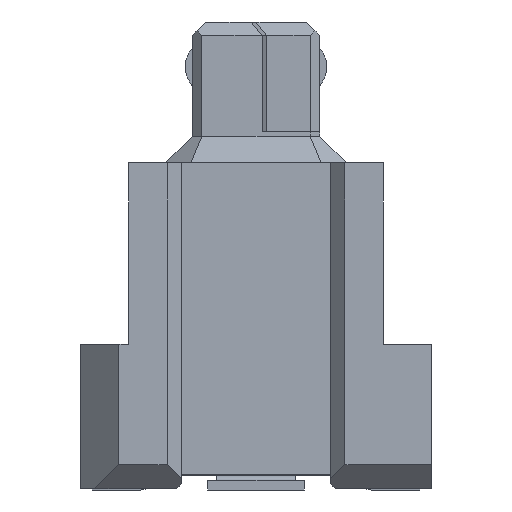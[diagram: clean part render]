
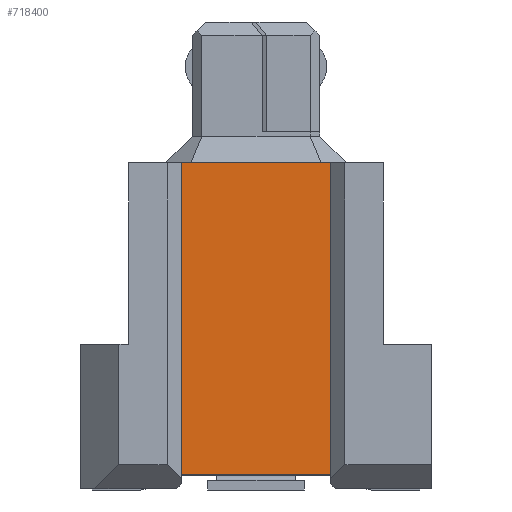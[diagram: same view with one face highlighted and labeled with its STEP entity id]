
A CAD part, left-side view. The second image highlights one B-rep face of the part: STEP entity #718400.
In plain terms, the highlighted planar face has unit normal (-1, 0, 0).
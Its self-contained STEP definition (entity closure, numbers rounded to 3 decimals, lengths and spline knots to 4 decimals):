
#68040=CARTESIAN_POINT('',(-10.0318,-5.0602,1.1));
#68050=VERTEX_POINT('',#68040);
#68080=CARTESIAN_POINT('',(-10.0318,-5.0602,0.));
#68090=DIRECTION('',(0.,0.,-1.));
#68100=VECTOR('',#68090,1.);
#68110=LINE('',#68080,#68100);
#68120=CARTESIAN_POINT('',(-10.0318,-5.0602,4.2));
#68130=VERTEX_POINT('',#68120);
#68140=EDGE_CURVE('',#68130,#68050,#68110,.T.);
#172870=CARTESIAN_POINT('',(-10.0318,1.4098,4.2));
#172880=VERTEX_POINT('',#172870);
#172910=CARTESIAN_POINT('',(-10.0318,1.4098,0.));
#172920=DIRECTION('',(0.,0.,1.));
#172930=VECTOR('',#172920,1.);
#172940=LINE('',#172910,#172930);
#172950=CARTESIAN_POINT('',(-10.0318,1.4098,1.1));
#172960=VERTEX_POINT('',#172950);
#172970=EDGE_CURVE('',#172960,#172880,#172940,.T.);
#718150=CARTESIAN_POINT('',(-10.0318,0.,1.1));
#718160=DIRECTION('',(0.,-1.,0.));
#718170=VECTOR('',#718160,1.);
#718180=LINE('',#718150,#718170);
#718190=EDGE_CURVE('',#172960,#68050,#718180,.T.);
#718240=CARTESIAN_POINT('',(-10.0318,-5.3602,5.3));
#718250=DIRECTION('',(-1.,0.,0.));
#718260=DIRECTION('',(0.,1.,0.));
#718270=AXIS2_PLACEMENT_3D('',#718240,#718250,#718260);
#718280=PLANE('',#718270);
#718290=ORIENTED_EDGE('',*,*,#718190,.T.);
#718300=ORIENTED_EDGE('',*,*,#172970,.F.);
#718310=CARTESIAN_POINT('',(-10.0318,0.,4.2));
#718320=DIRECTION('',(0.,-1.,0.));
#718330=VECTOR('',#718320,1.);
#718340=LINE('',#718310,#718330);
#718350=EDGE_CURVE('',#172880,#68130,#718340,.T.);
#718360=ORIENTED_EDGE('',*,*,#718350,.F.);
#718370=ORIENTED_EDGE('',*,*,#68140,.F.);
#718380=EDGE_LOOP('',(#718370,#718360,#718300,#718290));
#718390=FACE_OUTER_BOUND('',#718380,.T.);
#718400=ADVANCED_FACE('',(#718390),#718280,.T.);
